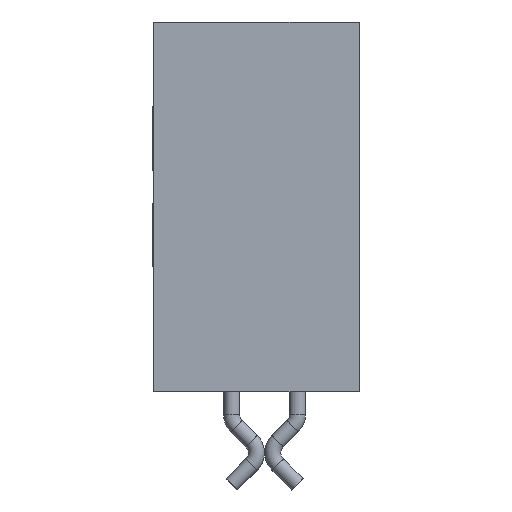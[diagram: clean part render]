
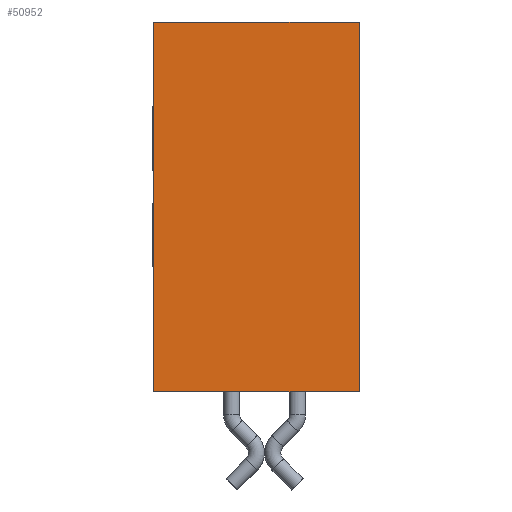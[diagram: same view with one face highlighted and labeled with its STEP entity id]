
A CAD part, left-side view. The second image highlights one B-rep face of the part: STEP entity #50952.
In plain terms, the highlighted planar face has unit normal (-1, 0, 0).
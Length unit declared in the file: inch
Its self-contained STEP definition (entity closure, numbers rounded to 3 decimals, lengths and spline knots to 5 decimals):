
#2507 = DIRECTION ( 'NONE',  ( -1., 0., 0. ) ) ;
#3344 = CARTESIAN_POINT ( 'NONE',  ( -0.5375, 0.0675, -0.225 ) ) ;
#8580 = PLANE ( 'NONE',  #54987 ) ;
#13188 = CARTESIAN_POINT ( 'NONE',  ( -0.5375, 0.0675, 0. ) ) ;
#14036 = ORIENTED_EDGE ( 'NONE', *, *, #53547, .T. ) ;
#16573 = ORIENTED_EDGE ( 'NONE', *, *, #23722, .F. ) ;
#17150 = LINE ( 'NONE', #45764, #24211 ) ;
#17705 = ORIENTED_EDGE ( 'NONE', *, *, #64518, .T. ) ;
#19011 = ORIENTED_EDGE ( 'NONE', *, *, #69448, .F. ) ;
#19714 = VERTEX_POINT ( 'NONE', #13188 ) ;
#20024 = CARTESIAN_POINT ( 'NONE',  ( -0.5375, 0.0675, -0.225 ) ) ;
#23321 = CARTESIAN_POINT ( 'NONE',  ( -0.5375, 0.0675, -0.225 ) ) ;
#23722 = EDGE_CURVE ( 'NONE', #19714, #46827, #67465, .T. ) ;
#24011 = VECTOR ( 'NONE', #49249, 39.37008 ) ;
#24211 = VECTOR ( 'NONE', #55861, 39.37008 ) ;
#25744 = DIRECTION ( 'NONE',  ( 0., -1., 0. ) ) ;
#33362 = VECTOR ( 'NONE', #44512, 39.37008 ) ;
#33894 = VECTOR ( 'NONE', #69774, 39.37008 ) ;
#34355 = CARTESIAN_POINT ( 'NONE',  ( -0.5375, -0.0575, -0.225 ) ) ;
#37281 = LINE ( 'NONE', #3344, #33362 ) ;
#42831 = CARTESIAN_POINT ( 'NONE',  ( -0.5375, -0.0575, -0.225 ) ) ;
#43681 = VERTEX_POINT ( 'NONE', #42831 ) ;
#44512 = DIRECTION ( 'NONE',  ( 0., -1., 0. ) ) ;
#45764 = CARTESIAN_POINT ( 'NONE',  ( -0.5375, 0.0675, -0.225 ) ) ;
#46554 = LINE ( 'NONE', #34355, #33894 ) ;
#46827 = VERTEX_POINT ( 'NONE', #58416 ) ;
#49249 = DIRECTION ( 'NONE',  ( 0., -1., 0. ) ) ;
#50952 = ADVANCED_FACE ( 'NONE', ( #67273 ), #8580, .T. ) ;
#53547 = EDGE_CURVE ( 'NONE', #53887, #43681, #37281, .T. ) ;
#53887 = VERTEX_POINT ( 'NONE', #23321 ) ;
#54987 = AXIS2_PLACEMENT_3D ( 'NONE', #20024, #2507, #25744 ) ;
#55861 = DIRECTION ( 'NONE',  ( 0., 0., 1. ) ) ;
#58416 = CARTESIAN_POINT ( 'NONE',  ( -0.5375, -0.0575, 0. ) ) ;
#64518 = EDGE_CURVE ( 'NONE', #43681, #46827, #46554, .T. ) ;
#65351 = EDGE_LOOP ( 'NONE', ( #16573, #19011, #14036, #17705 ) ) ;
#67273 = FACE_OUTER_BOUND ( 'NONE', #65351, .T. ) ;
#67465 = LINE ( 'NONE', #67826, #24011 ) ;
#67826 = CARTESIAN_POINT ( 'NONE',  ( -0.5375, 0.0675, 0. ) ) ;
#69448 = EDGE_CURVE ( 'NONE', #53887, #19714, #17150, .T. ) ;
#69774 = DIRECTION ( 'NONE',  ( 0., 0., 1. ) ) ;
